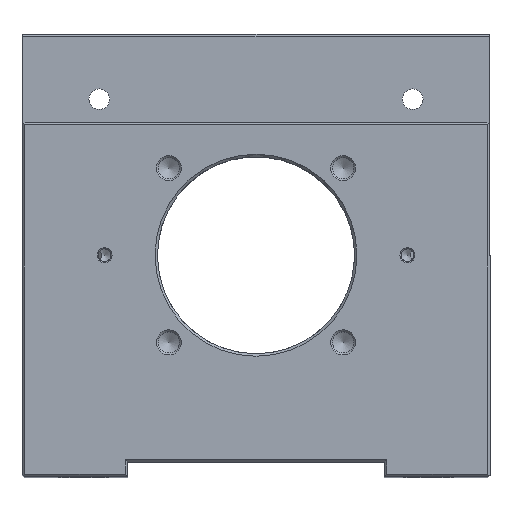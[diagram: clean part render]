
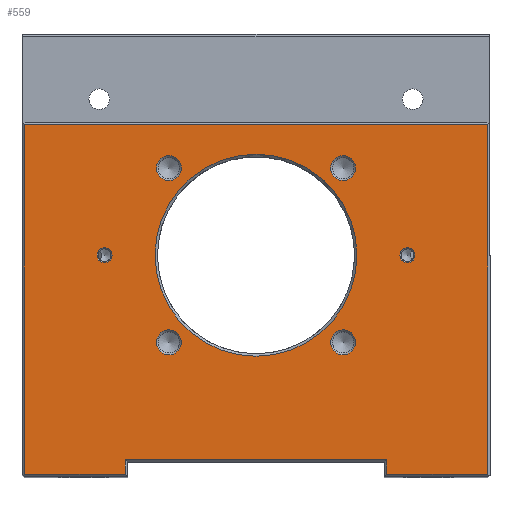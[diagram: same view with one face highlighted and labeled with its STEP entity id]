
A CAD part, top view. The second image highlights one B-rep face of the part: STEP entity #559.
In plain terms, the highlighted planar face has unit normal (0, 0, 1).
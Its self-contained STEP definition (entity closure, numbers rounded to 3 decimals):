
#143=PLANE('',#2178);
#221=LINE('',#3270,#340);
#222=LINE('',#3273,#341);
#223=LINE('',#3275,#342);
#224=LINE('',#3277,#343);
#225=LINE('',#3279,#344);
#226=LINE('',#3281,#345);
#227=LINE('',#3283,#346);
#228=LINE('',#3285,#347);
#340=VECTOR('',#2602,1.);
#341=VECTOR('',#2603,1.);
#342=VECTOR('',#2604,1.);
#343=VECTOR('',#2605,1.);
#344=VECTOR('',#2606,1.);
#345=VECTOR('',#2607,1.);
#346=VECTOR('',#2608,1.);
#347=VECTOR('',#2609,1.);
#559=ADVANCED_FACE('',(#813,#814,#815,#816,#817,#818,#819,#820),#143,.T.);
#813=FACE_BOUND('',#991,.T.);
#814=FACE_BOUND('',#992,.T.);
#815=FACE_BOUND('',#993,.T.);
#816=FACE_BOUND('',#994,.T.);
#817=FACE_BOUND('',#995,.T.);
#818=FACE_BOUND('',#996,.T.);
#819=FACE_BOUND('',#997,.T.);
#820=FACE_BOUND('',#998,.T.);
#991=EDGE_LOOP('',(#1259));
#992=EDGE_LOOP('',(#1260));
#993=EDGE_LOOP('',(#1261));
#994=EDGE_LOOP('',(#1262));
#995=EDGE_LOOP('',(#1263));
#996=EDGE_LOOP('',(#1264));
#997=EDGE_LOOP('',(#1265));
#998=EDGE_LOOP('',(#1266,#1267,#1268,#1269,#1270,#1271,#1272,#1273));
#1259=ORIENTED_EDGE('',*,*,#1692,.T.);
#1260=ORIENTED_EDGE('',*,*,#1718,.F.);
#1261=ORIENTED_EDGE('',*,*,#1723,.F.);
#1262=ORIENTED_EDGE('',*,*,#1728,.F.);
#1263=ORIENTED_EDGE('',*,*,#1731,.F.);
#1264=ORIENTED_EDGE('',*,*,#1734,.F.);
#1265=ORIENTED_EDGE('',*,*,#1737,.F.);
#1266=ORIENTED_EDGE('',*,*,#1827,.T.);
#1267=ORIENTED_EDGE('',*,*,#1828,.T.);
#1268=ORIENTED_EDGE('',*,*,#1829,.T.);
#1269=ORIENTED_EDGE('',*,*,#1830,.T.);
#1270=ORIENTED_EDGE('',*,*,#1831,.T.);
#1271=ORIENTED_EDGE('',*,*,#1832,.T.);
#1272=ORIENTED_EDGE('',*,*,#1833,.T.);
#1273=ORIENTED_EDGE('',*,*,#1834,.T.);
#1506=VERTEX_POINT('',#2796);
#1532=VERTEX_POINT('',#2861);
#1537=VERTEX_POINT('',#2913);
#1542=VERTEX_POINT('',#2965);
#1546=VERTEX_POINT('',#2975);
#1550=VERTEX_POINT('',#2985);
#1554=VERTEX_POINT('',#2995);
#1650=VERTEX_POINT('',#3271);
#1651=VERTEX_POINT('',#3272);
#1652=VERTEX_POINT('',#3274);
#1653=VERTEX_POINT('',#3276);
#1654=VERTEX_POINT('',#3278);
#1655=VERTEX_POINT('',#3280);
#1656=VERTEX_POINT('',#3282);
#1657=VERTEX_POINT('',#3284);
#1692=EDGE_CURVE('',#1506,#1506,#1916,.T.);
#1718=EDGE_CURVE('',#1532,#1532,#1942,.T.);
#1723=EDGE_CURVE('',#1537,#1537,#1945,.T.);
#1728=EDGE_CURVE('',#1542,#1542,#1948,.T.);
#1731=EDGE_CURVE('',#1546,#1546,#1951,.T.);
#1734=EDGE_CURVE('',#1550,#1550,#1954,.T.);
#1737=EDGE_CURVE('',#1554,#1554,#1957,.T.);
#1827=EDGE_CURVE('',#1650,#1651,#221,.T.);
#1828=EDGE_CURVE('',#1651,#1652,#222,.T.);
#1829=EDGE_CURVE('',#1652,#1653,#223,.T.);
#1830=EDGE_CURVE('',#1653,#1654,#224,.T.);
#1831=EDGE_CURVE('',#1654,#1655,#225,.T.);
#1832=EDGE_CURVE('',#1655,#1656,#226,.T.);
#1833=EDGE_CURVE('',#1656,#1657,#227,.T.);
#1834=EDGE_CURVE('',#1657,#1650,#228,.T.);
#1916=CIRCLE('',#2012,20.5);
#1942=CIRCLE('',#2051,1.525);
#1945=CIRCLE('',#2057,1.525);
#1948=CIRCLE('',#2063,2.525);
#1951=CIRCLE('',#2069,2.525);
#1954=CIRCLE('',#2075,2.525);
#1957=CIRCLE('',#2081,2.525);
#2012=AXIS2_PLACEMENT_3D('',#2795,#2235,#2236);
#2051=AXIS2_PLACEMENT_3D('',#2860,#2313,#2314);
#2057=AXIS2_PLACEMENT_3D('',#2912,#2325,#2326);
#2063=AXIS2_PLACEMENT_3D('',#2964,#2337,#2338);
#2069=AXIS2_PLACEMENT_3D('',#2974,#2349,#2350);
#2075=AXIS2_PLACEMENT_3D('',#2984,#2361,#2362);
#2081=AXIS2_PLACEMENT_3D('',#2994,#2373,#2374);
#2178=AXIS2_PLACEMENT_3D('',#3286,#2610,#2611);
#2235=DIRECTION('',(0.,0.,-1.));
#2236=DIRECTION('',(0.,-1.,0.));
#2313=DIRECTION('',(0.,0.,1.));
#2314=DIRECTION('',(0.,-1.,0.));
#2325=DIRECTION('',(0.,0.,1.));
#2326=DIRECTION('',(0.,-1.,0.));
#2337=DIRECTION('',(0.,0.,1.));
#2338=DIRECTION('',(0.,-1.,0.));
#2349=DIRECTION('',(0.,0.,1.));
#2350=DIRECTION('',(0.,-1.,0.));
#2361=DIRECTION('',(0.,0.,1.));
#2362=DIRECTION('',(0.,-1.,0.));
#2373=DIRECTION('',(0.,0.,1.));
#2374=DIRECTION('',(0.,-1.,0.));
#2602=DIRECTION('',(0.,1.,0.));
#2603=DIRECTION('',(-1.,0.,0.));
#2604=DIRECTION('',(0.,-1.,0.));
#2605=DIRECTION('',(1.,0.,0.));
#2606=DIRECTION('',(0.,1.,0.));
#2607=DIRECTION('',(1.,0.,0.));
#2608=DIRECTION('',(0.,-1.,0.));
#2609=DIRECTION('',(1.,0.,0.));
#2610=DIRECTION('',(0.,0.,1.));
#2611=DIRECTION('',(0.,1.,0.));
#2795=CARTESIAN_POINT('',(0.,0.,48.5));
#2796=CARTESIAN_POINT('',(0.,-20.5,48.5));
#2860=CARTESIAN_POINT('',(30.75,0.,48.5));
#2861=CARTESIAN_POINT('',(30.75,-1.525,48.5));
#2912=CARTESIAN_POINT('',(-30.75,0.,48.5));
#2913=CARTESIAN_POINT('',(-30.75,-1.525,48.5));
#2964=CARTESIAN_POINT('',(17.678,17.678,48.5));
#2965=CARTESIAN_POINT('',(17.678,15.153,48.5));
#2974=CARTESIAN_POINT('',(17.678,-17.678,48.5));
#2975=CARTESIAN_POINT('',(17.678,-20.203,48.5));
#2984=CARTESIAN_POINT('',(-17.678,-17.678,48.5));
#2985=CARTESIAN_POINT('',(-17.678,-20.203,48.5));
#2994=CARTESIAN_POINT('',(-17.678,17.678,48.5));
#2995=CARTESIAN_POINT('',(-17.678,15.153,48.5));
#3270=CARTESIAN_POINT('',(47.,0.,48.5));
#3271=CARTESIAN_POINT('',(47.,-44.5,48.5));
#3272=CARTESIAN_POINT('',(47.,26.5,48.5));
#3273=CARTESIAN_POINT('',(-46.8,26.5,48.5));
#3274=CARTESIAN_POINT('',(-47.,26.5,48.5));
#3275=CARTESIAN_POINT('',(-47.,-44.5,48.5));
#3276=CARTESIAN_POINT('',(-47.,-44.5,48.5));
#3277=CARTESIAN_POINT('',(-26.,-44.5,48.5));
#3278=CARTESIAN_POINT('',(-26.5,-44.5,48.5));
#3279=CARTESIAN_POINT('',(-26.5,-42.,48.5));
#3280=CARTESIAN_POINT('',(-26.5,-41.5,48.5));
#3281=CARTESIAN_POINT('',(26.,-41.5,48.5));
#3282=CARTESIAN_POINT('',(26.5,-41.5,48.5));
#3283=CARTESIAN_POINT('',(26.5,-45.,48.5));
#3284=CARTESIAN_POINT('',(26.5,-44.5,48.5));
#3285=CARTESIAN_POINT('',(47.,-44.5,48.5));
#3286=CARTESIAN_POINT('',(0.,0.,48.5));
